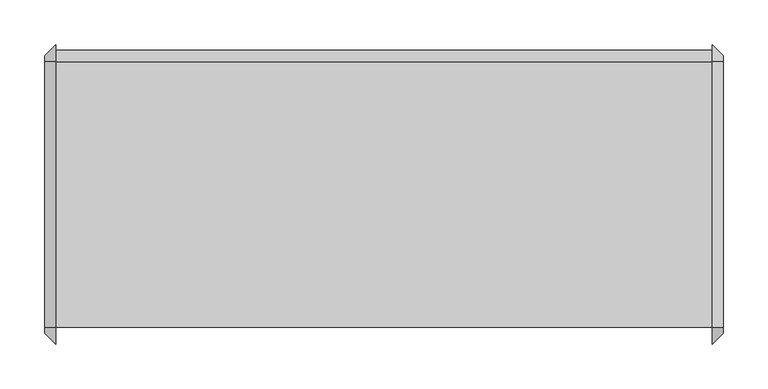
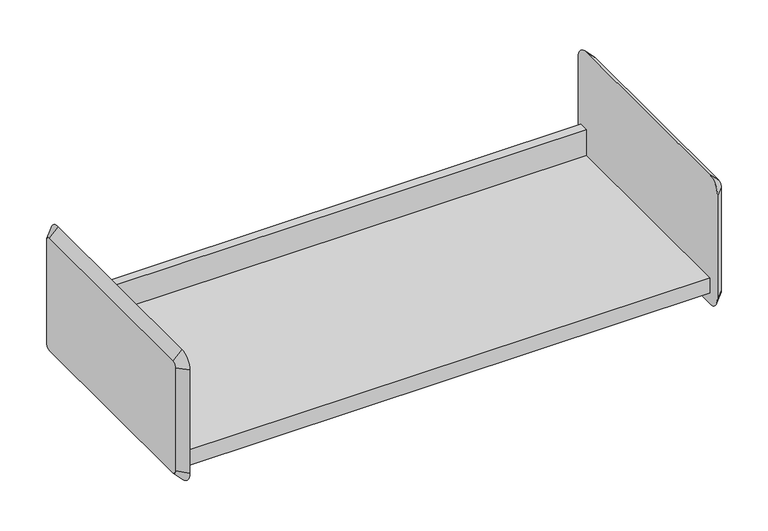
"""IFC4 building model written with IfcOpenShell, lengths in millimetres: furniture geometry."""

import ifcopenshell
import ifcopenshell.guid

model = None  # the IFC model being written
_history = None  # IfcOwnerHistory: only IFC2X3 demands one
_inside = {}  # id of a spatial element -> (the spatial element, [elements in it])
_under = {}  # id of a project, library or spatial element -> (it, [spatial elements below it])
_declared = {}  # id of a project -> (the project, [libraries it declares])
_typed = {}  # id of a type object -> (the type object, [elements of that type])
_made_of = {}  # id of a material, layer set ... -> (it, [elements and type objects made of it])


def new_model(schema):
    """Start an empty IFC model of exactly this schema.

    Asked for "IFC4X3", IfcOpenShell would pick the latest addendum, in which some entities
    have other attributes; the version numbers below select the first issue.
    IFC2X3 requires an IfcOwnerHistory on every rooted entity: one is made here for all.
    """
    global model, _history
    if schema == "IFC4X3":
        model = ifcopenshell.file(schema_version=(4, 3, 0, 0))
    else:
        model = ifcopenshell.file(schema=schema)
    _inside.clear()
    _under.clear()
    _declared.clear()
    _typed.clear()
    _made_of.clear()
    _history = None
    if model.schema == "IFC2X3":
        org = make("IfcOrganization", Name="unknown")
        user = make(
            "IfcPersonAndOrganization",
            ThePerson=make("IfcPerson", FamilyName="unknown"),
            TheOrganization=org,
        )
        app = make(
            "IfcApplication",
            ApplicationDeveloper=org,
            Version="unknown",
            ApplicationFullName="unknown",
            ApplicationIdentifier="unknown",
        )
        _history = make(
            "IfcOwnerHistory",
            OwningUser=user,
            OwningApplication=app,
            ChangeAction="ADDED",
            CreationDate=0,
        )
    return model


def make(cls, **values):
    """One entity of the class cls with the attributes given. An attribute that is None is left unset."""
    return model.create_entity(
        cls, **{name: value for name, value in values.items() if value is not None}
    )


def rooted(cls, **values):
    """An entity with a GlobalId (a new one), such as an element, a storey or a relation."""
    return make(cls, GlobalId=ifcopenshell.guid.new(), OwnerHistory=_history, **values)


def si_unit(unit_type, name, prefix=None):
    """IfcSIUnit, for example si_unit("LENGTHUNIT", "METRE", prefix="MILLI")."""
    return make("IfcSIUnit", UnitType=unit_type, Prefix=prefix, Name=name)


def assignment(units):
    """IfcUnitAssignment: the units of a project."""
    return None if units is None else make("IfcUnitAssignment", Units=units)


def point(xyz):
    """IfcCartesianPoint."""
    return None if xyz is None else make("IfcCartesianPoint", Coordinates=xyz)


def direction(xyz):
    """IfcDirection."""
    return None if xyz is None else make("IfcDirection", DirectionRatios=xyz)


def frame(location, z_axis=None, x_axis=None):
    """IfcAxis2Placement3D, a coordinate frame: its origin and axes. An axis left out is left unset."""
    return make(
        "IfcAxis2Placement3D",
        Location=point(location),
        Axis=direction(z_axis),
        RefDirection=direction(x_axis),
    )


def origin():
    """The frame at (0, 0, 0) with its axes left unset."""
    return frame((0.0, 0.0, 0.0))


def place(relative_to, where):
    """IfcLocalPlacement: puts the frame where relative to a parent placement (None: the world)."""
    return make(
        "IfcLocalPlacement", PlacementRelTo=relative_to, RelativePlacement=where
    )


def context(
    kind, dimensions, precision=None, world=None, true_north=None, identifier=None
):
    """IfcGeometricRepresentationContext, for example the 3D "Model" context."""
    return make(
        "IfcGeometricRepresentationContext",
        ContextIdentifier=identifier,
        ContextType=kind,
        CoordinateSpaceDimension=dimensions,
        Precision=precision,
        WorldCoordinateSystem=world,
        TrueNorth=true_north,
    )


def project(units=None, contexts=None):
    """IfcProject with its units and contexts."""
    return rooted(
        "IfcProject",
        Name="project",
        RepresentationContexts=contexts,
        UnitsInContext=assignment(units),
    )


def spatial(cls, under=None, at=None, **own):
    """A site, building, storey or space (cls), placed at a placement, below another one or the project."""
    s = rooted(cls, ObjectPlacement=at, **own)
    if under is not None:
        _under.setdefault(under.id(), (under, []))[1].append(s)
    return s


def polyline(points):
    """IfcPolyline through the points."""
    return make("IfcPolyline", Points=[point(p) for p in points])


def circle_curve(where, radius):
    """IfcCircle in the frame where."""
    return make("IfcCircle", Position=where, Radius=radius)


def outline(outer, holes=None, kind="AREA"):
    """IfcArbitraryClosedProfileDef: a profile drawn as a closed curve; with holes, ...WithVoids."""
    if holes is None:
        return make("IfcArbitraryClosedProfileDef", ProfileType=kind, OuterCurve=outer)
    return make(
        "IfcArbitraryProfileDefWithVoids",
        ProfileType=kind,
        OuterCurve=outer,
        InnerCurves=holes,
    )


def extrude(swept, where, along, depth):
    """IfcExtrudedAreaSolid: the profile swept, set in the frame where, extruded along a direction by depth."""
    return make(
        "IfcExtrudedAreaSolid",
        SweptArea=swept,
        Position=where,
        ExtrudedDirection=direction(along),
        Depth=depth,
    )


def shape(context_of_items, identifier, shape_type, items):
    """IfcShapeRepresentation: the items that make up one representation, for example the "Body"."""
    return make(
        "IfcShapeRepresentation",
        ContextOfItems=context_of_items,
        RepresentationIdentifier=identifier,
        RepresentationType=shape_type,
        Items=items,
    )


def source(mapping_origin, context_of_items, identifier, shape_type, items):
    """IfcRepresentationMap: a shape defined once, which mapped items show again and again."""
    return make(
        "IfcRepresentationMap",
        MappingOrigin=mapping_origin,
        MappedRepresentation=shape(context_of_items, identifier, shape_type, items),
    )


def transform(
    local_origin,
    x_axis=None,
    y_axis=None,
    z_axis=None,
    scale=None,
    scale2=None,
    scale3=None,
    uniform=True,
):
    """IfcCartesianTransformationOperator3D, or its non-uniform kind. x_axis, y_axis, z_axis: its Axis1, 2, 3."""
    if uniform:
        return make(
            "IfcCartesianTransformationOperator3D",
            Axis1=direction(x_axis),
            Axis2=direction(y_axis),
            LocalOrigin=point(local_origin),
            Scale=scale,
            Axis3=direction(z_axis),
        )
    return make(
        "IfcCartesianTransformationOperator3DnonUniform",
        Axis1=direction(x_axis),
        Axis2=direction(y_axis),
        LocalOrigin=point(local_origin),
        Scale=scale,
        Axis3=direction(z_axis),
        Scale2=scale2,
        Scale3=scale3,
    )


def mapped(mapping_source, mapping_target):
    """IfcMappedItem: shows the shape of a source again, moved by a transform."""
    return make(
        "IfcMappedItem", MappingSource=mapping_source, MappingTarget=mapping_target
    )


def made_of(thing, what):
    """Note that an element or type object is made of a material, layer set ...; save() writes the relation."""
    if what is not None:
        _made_of.setdefault(what.id(), (what, []))[1].append(thing)
    return thing


def element(
    cls,
    number,
    at=None,
    inside=None,
    cuts=None,
    type_object=None,
    material=None,
    context=None,
    identifier="Body",
    shape_type=None,
    held_by="IfcProductDefinitionShape",
    body=None,
    shapes=None,
    **own,
):
    """One element of the class cls, such as IfcWall. Its Tag is "e" and its number.

    at: its placement. inside: the storey or other place that contains it. cuts: it is an
    opening in that element (IfcRelVoidsElement). A single representation is given by context,
    identifier, shape_type and body (its items); several are given by shapes. held_by: the class
    of the entity that holds the representations. save() writes the other relations.
    """
    e = rooted(cls, Tag="e%d" % number, ObjectPlacement=at, **own)
    if body is not None:
        shapes = [shape(context, identifier, shape_type, body)]
    if shapes is not None:
        e.Representation = make(held_by, Representations=shapes)
    if inside is not None:
        _inside.setdefault(inside.id(), (inside, []))[1].append(e)
    if cuts is not None:
        rooted(
            "IfcRelVoidsElement", RelatingBuildingElement=cuts, RelatedOpeningElement=e
        )
    if type_object is not None:
        _typed.setdefault(type_object.id(), (type_object, []))[1].append(e)
    return made_of(e, material)


def aggregate(whole, parts):
    """IfcRelAggregates: a whole, such as a stair, and the parts it consists of."""
    return rooted("IfcRelAggregates", RelatingObject=whole, RelatedObjects=parts)


def save(model, path):
    """Write the relations noted so far, then the file.

    IfcRelAggregates (storeys below a building ...), IfcRelContainedInSpatialStructure (elements
    in a storey), IfcRelDefinesByType, IfcRelAssociatesMaterial and IfcRelDeclares: one each for
    every whole, place, type object, material and project.
    """
    for whole, parts in _under.values():
        aggregate(whole, parts)
    for where, things in _inside.values():
        rooted(
            "IfcRelContainedInSpatialStructure",
            RelatedElements=things,
            RelatingStructure=where,
        )
    for kind, things in _typed.values():
        rooted("IfcRelDefinesByType", RelatedObjects=things, RelatingType=kind)
    for what, things in _made_of.values():
        rooted("IfcRelAssociatesMaterial", RelatedObjects=things, RelatingMaterial=what)
    for by, libraries in _declared.values():
        rooted("IfcRelDeclares", RelatingContext=by, RelatedDefinitions=libraries)
    model.write(path)


def plane_surface(at):
    """IfcPlane: the flat surface through the origin of the frame at, square to its z axis."""
    return make("IfcPlane", Position=at)


def revolved_surface(curve, axis_point, axis_direction):
    """IfcSurfaceOfRevolution: the curve turned about the line through axis_point along axis_direction."""
    return make(
        "IfcSurfaceOfRevolution",
        SweptCurve=make("IfcArbitraryOpenProfileDef", ProfileType="CURVE", Curve=curve),
        AxisPosition=make("IfcAxis1Placement", Location=point(axis_point), Axis=direction(axis_direction)),
    )


def advanced_brep(points, edges, surfaces, faces):
    """IfcAdvancedBrep: a solid bounded by faces that lie on surfaces and meet in shared edges.

    An edge is (start, end): straight between two places in points (the first is 0);
    or (start, end, curve); or (start, end, curve, False) where it runs against its curve.
    A face is (place in surfaces, loops), or (place, loops, False) where it looks against
    its surface's normal. A loop lists edges by number (the first is 1), with a minus sign
    where the edge is run from its end to its start. The first loop is the outer one.
    """
    corners = [point(p) for p in points]
    vertices = [make("IfcVertexPoint", VertexGeometry=c) for c in corners]
    made = []
    for start, end, *more in edges:
        made.append(
            make(
                "IfcEdgeCurve",
                EdgeStart=vertices[start],
                EdgeEnd=vertices[end],
                EdgeGeometry=more[0] if more else make("IfcPolyline", Points=[corners[start], corners[end]]),
                SameSense=more[1] if len(more) > 1 else True,
            )
        )
    hull = []
    for where, loops, *sense in faces:
        bounds = []
        for j, loop in enumerate(loops):
            ring = [make("IfcOrientedEdge", EdgeElement=made[abs(k) - 1], Orientation=k > 0) for k in loop]
            bounds.append(
                make(
                    "IfcFaceOuterBound" if j == 0 else "IfcFaceBound",
                    Bound=make("IfcEdgeLoop", EdgeList=ring),
                    Orientation=True,
                )
            )
        hull.append(make("IfcAdvancedFace", Bounds=bounds, FaceSurface=surfaces[where], SameSense=sense[0] if sense else True))
    return make("IfcAdvancedBrep", Outer=make("IfcClosedShell", CfsFaces=hull))


def furniture_510dab15(model_context):
    return source(origin(), model_context, "Body", "SolidModel", [
        extrude(outline(polyline([(-136.525, 1159.66748), (161.925, 1159.66748), (161.925, 1197.76748), (174.625, 1197.76748), (174.625, 1194.59248), (165.1, 1194.59248), (165.1, 1156.49248), (-133.35, 1156.49248), (-133.35, 1137.44248), (-136.525, 1137.44248), (-136.525, 1159.66748)])), frame((-492.2420045, 0.0, 0.0), z_axis=(1.0, 0.0, 0.0), x_axis=(0.0, 1.0, 0.0)), (0.0, 0.0, 1.0), 736.6),
        advanced_brep(
        [(257.0579955, 161.925, 1299.36748), (257.0579955, -136.525, 1299.36748), (257.0579955, -142.875, 1293.01748), (257.0579955, -142.875, 1140.61748), (257.0579955, -136.525, 1134.26748), (257.0579955, 161.925, 1134.26748), (257.0579955, 168.275, 1140.61748), (257.0579955, 168.275, 1293.01748), (244.3579955, 161.925, 1312.06748), (244.3579955, 180.975, 1293.01748), (244.3579955, 180.975, 1140.61748), (244.3579955, 161.925, 1121.56748), (244.3579955, -136.525, 1121.56748), (244.3579955, -155.575, 1140.61748), (244.3579955, -155.575, 1293.01748), (244.3579955, -136.525, 1312.06748)],
        [
            (0, 1),
            (1, 2, circle_curve(frame((257.0579955, -136.525, 1293.01748), z_axis=(1.0, 2.0756729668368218e-12, -2.1529444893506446e-12), x_axis=(2.15291077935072e-12, 0.0, 1.0)), 6.35)),
            (2, 3),
            (3, 4, circle_curve(frame((257.0579955, -136.525, 1140.61748), z_axis=(1.0, 2.0596857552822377e-12, 2.046363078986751e-12), x_axis=(2.059647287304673e-12, -1.0, 0.0)), 6.35)),
            (4, 5),
            (5, 6, circle_curve(frame((257.0579955, 161.925, 1140.61748), z_axis=(1.0, 2.0889956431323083e-12, -2.0996537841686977e-12), x_axis=(-2.0996846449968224e-12, 0.0, -1.0)), 6.35)),
            (6, 7),
            (7, 0, circle_curve(frame((257.0579955, 161.925, 1293.01748), z_axis=(1.0, 2.0783375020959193e-12, 2.003730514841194e-12), x_axis=(-2.0783313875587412e-12, 1.0, 0.0)), 6.35)),
            (8, 9, circle_curve(frame((244.3579955, 161.925, 1293.01748), z_axis=(-1.0, -2.0783375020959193e-12, -2.003730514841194e-12), x_axis=(-2.0783313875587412e-12, 1.0, 0.0)), 19.05)),
            (9, 10),
            (10, 11, circle_curve(frame((244.3579955, 161.925, 1140.61748), z_axis=(-1.0, -2.0889956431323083e-12, 2.0996537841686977e-12), x_axis=(-2.0996846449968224e-12, 0.0, -1.0)), 19.05)),
            (11, 12),
            (12, 13, circle_curve(frame((244.3579955, -136.525, 1140.61748), z_axis=(-1.0, -2.0596857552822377e-12, -2.046363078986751e-12), x_axis=(2.059647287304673e-12, -1.0, 0.0)), 19.05)),
            (13, 14),
            (14, 15, circle_curve(frame((244.3579955, -136.525, 1293.01748), z_axis=(-1.0, -2.0756729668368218e-12, 2.1529444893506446e-12), x_axis=(2.15291077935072e-12, 0.0, 1.0)), 19.05)),
            (15, 8),
            (15, 1),
            (0, 8),
            (14, 2),
            (13, 3),
            (12, 4),
            (11, 5),
            (10, 6),
            (9, 7),
        ],
        [
            plane_surface(frame((257.0579955, 12.7, 1216.81748), z_axis=(1.0, 0.0, 0.0), x_axis=(0.0, -1.0, 0.0))),
            plane_surface(frame((244.3579955, 12.7, 1216.81748), z_axis=(-1.0, 0.0, 0.0), x_axis=(0.0, -1.0, 0.0))),
            plane_surface(frame((244.3579955, 12.7, 1312.06748), z_axis=(0.7071067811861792, 0.0, 0.7071067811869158), x_axis=(0.0, -1.0, 0.0))),
            revolved_surface(polyline([(257.0579955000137, -136.525, 1299.3674799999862), (244.3579955, -136.525, 1312.06748)]), (263.4079955, -136.525, 1293.01748), (-1.0, -2.0756729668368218e-12, 2.1529444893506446e-12)),
            plane_surface(frame((244.3579955, -155.575, 1216.81748), z_axis=(0.7071067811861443, -0.7071067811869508, 0.0), x_axis=(0.0, 0.0, -1.0))),
            revolved_surface(polyline([(257.0579955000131, -142.87499999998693, 1140.61748), (244.3579955, -155.575, 1140.61748)]), (263.4079955, -136.525, 1140.61748), (-1.0, -2.0596857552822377e-12, -2.046363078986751e-12)),
            plane_surface(frame((244.3579955, 12.7, 1121.56748), z_axis=(0.7071067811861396, 0.0, -0.7071067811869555), x_axis=(0.0, 1.0, 0.0))),
            revolved_surface(polyline([(257.0579955, 161.925, 1134.26748), (244.35799549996, 161.925, 1121.56747999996)]), (263.4079955, 161.925, 1140.61748), (-1.0, -2.0889956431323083e-12, 2.0996537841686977e-12)),
            plane_surface(frame((244.3579955, 180.975, 1216.81748), z_axis=(0.7071067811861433, 0.7071067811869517, 0.0), x_axis=(0.0, 0.0, 1.0))),
            revolved_surface(polyline([(257.0579955, 168.275, 1293.01748), (244.3579954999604, 180.97500000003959, 1293.01748)]), (263.4079955, 161.925, 1293.01748), (-1.0, -2.0783375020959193e-12, -2.003730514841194e-12)),
        ],
        [
            (0, [[1, 2, 3, 4, 5, 6, 7, 8]]),
            (1, [[9, 10, 11, 12, 13, 14, 15, 16]]),
            (2, [[-16, 17, -1, 18]]),
            (3, [[-15, 19, -2, -17]]),
            (4, [[-14, 20, -3, -19]]),
            (5, [[-13, 21, -4, -20]]),
            (6, [[-12, 22, -5, -21]]),
            (7, [[-11, 23, -6, -22]]),
            (8, [[-10, 24, -7, -23]]),
            (9, [[-9, -18, -8, -24]]),
        ],
    ),
        advanced_brep(
        [(-504.9420045, -136.525, 1299.36748), (-504.9420045, 161.925, 1299.36748), (-504.9420045, 168.275, 1293.01748), (-504.9420045, 168.275, 1140.61748), (-504.9420045, 161.925, 1134.26748), (-504.9420045, -136.525, 1134.26748), (-504.9420045, -142.875, 1140.61748), (-504.9420045, -142.875, 1293.01748), (-492.2420045, -136.525, 1312.06748), (-492.2420045, -155.575, 1293.01748), (-492.2420045, -155.575, 1140.61748), (-492.2420045, -136.525, 1121.56748), (-492.2420045, 161.925, 1121.56748), (-492.2420045, 180.975, 1140.61748), (-492.2420045, 180.975, 1293.01748), (-492.2420045, 161.925, 1312.06748)],
        [
            (0, 1),
            (1, 2, circle_curve(frame((-504.9420045, 161.925, 1293.01748), z_axis=(-1.0, 0.0, 0.0), x_axis=(0.0, 0.0, 1.0)), 6.35)),
            (2, 3),
            (3, 4, circle_curve(frame((-504.9420045, 161.925, 1140.61748), z_axis=(-1.0, 0.0, 0.0), x_axis=(0.0, 1.0, 0.0)), 6.35)),
            (4, 5),
            (5, 6, circle_curve(frame((-504.9420045, -136.525, 1140.61748), z_axis=(-1.0, 0.0, 0.0), x_axis=(0.0, 0.0, -1.0)), 6.35)),
            (6, 7),
            (7, 0, circle_curve(frame((-504.9420045, -136.525, 1293.01748), z_axis=(-1.0, 0.0, 0.0), x_axis=(0.0, -1.0, 0.0)), 6.35)),
            (8, 9, circle_curve(frame((-492.2420045, -136.525, 1293.01748), z_axis=(1.0, 0.0, 0.0), x_axis=(0.0, -1.0, 0.0)), 19.05)),
            (9, 10),
            (10, 11, circle_curve(frame((-492.2420045, -136.525, 1140.61748), z_axis=(1.0, 0.0, 0.0), x_axis=(0.0, 0.0, -1.0)), 19.05)),
            (11, 12),
            (12, 13, circle_curve(frame((-492.2420045, 161.925, 1140.61748), z_axis=(1.0, 0.0, 0.0), x_axis=(0.0, 1.0, 0.0)), 19.05)),
            (13, 14),
            (14, 15, circle_curve(frame((-492.2420045, 161.925, 1293.01748), z_axis=(1.0, 0.0, 0.0), x_axis=(0.0, 0.0, 1.0)), 19.05)),
            (15, 8),
            (15, 1),
            (0, 8),
            (14, 2),
            (13, 3),
            (12, 4),
            (11, 5),
            (10, 6),
            (9, 7),
        ],
        [
            plane_surface(frame((-504.9420045, 12.7, 1216.81748), z_axis=(-1.0, 0.0, 0.0), x_axis=(0.0, -1.0, 0.0))),
            plane_surface(frame((-492.2420045, 12.7, 1216.81748), z_axis=(1.0, 0.0, 0.0), x_axis=(0.0, -1.0, 0.0))),
            plane_surface(frame((-492.2420045, 12.7, 1312.06748), z_axis=(-0.7071067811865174, 0.0, 0.7071067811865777), x_axis=(0.0, 1.0, 0.0))),
            revolved_surface(polyline([(-504.9420045, 161.925, 1299.36748), (-492.2420045, 161.925, 1312.06748)]), (-511.2920045, 161.925, 1293.01748), (1.0, 0.0, 0.0)),
            plane_surface(frame((-492.2420045, 180.975, 1216.81748), z_axis=(-0.7071067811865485, 0.7071067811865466, 0.0), x_axis=(0.0, 0.0, -1.0))),
            revolved_surface(polyline([(-504.9420045, 168.27500000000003, 1140.61748), (-492.2420045, 180.975, 1140.61748)]), (-511.2920045, 161.925, 1140.61748), (1.0, 0.0, 0.0)),
            plane_surface(frame((-492.2420045, 12.7, 1121.56748), z_axis=(-0.707106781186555, 0.0, -0.70710678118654), x_axis=(0.0, -1.0, 0.0))),
            revolved_surface(polyline([(-504.9420045, -136.525, 1134.26748), (-492.2420045, -136.525, 1121.56748)]), (-511.2920045, -136.525, 1140.61748), (1.0, 0.0, 0.0)),
            plane_surface(frame((-492.2420045, -155.575, 1216.81748), z_axis=(-0.7071067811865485, -0.7071067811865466, 0.0), x_axis=(0.0, 0.0, 1.0))),
            revolved_surface(polyline([(-504.9420045, -142.87500000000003, 1293.01748), (-492.2420045, -155.575, 1293.01748)]), (-511.2920045, -136.525, 1293.01748), (1.0, 0.0, 0.0)),
        ],
        [
            (0, [[1, 2, 3, 4, 5, 6, 7, 8]]),
            (1, [[9, 10, 11, 12, 13, 14, 15, 16]]),
            (2, [[-16, 17, -1, 18]]),
            (3, [[-15, 19, -2, -17]]),
            (4, [[-14, 20, -3, -19]]),
            (5, [[-13, 21, -4, -20]]),
            (6, [[-12, 22, -5, -21]]),
            (7, [[-11, 23, -6, -22]]),
            (8, [[-10, 24, -7, -23]]),
            (9, [[-9, -18, -8, -24]]),
        ],
    ),
    ])


if __name__ == "__main__":
    model = new_model("IFC4")
    model_context = context("Model", 3, world=origin())
    ifc_project = project(units=[si_unit("LENGTHUNIT", "METRE", prefix="MILLI")], contexts=[model_context])
    site = spatial("IfcSite", under=ifc_project)
    building = spatial("IfcBuilding", under=site)
    placement = place(None, origin())
    furniture_shape = furniture_510dab15(model_context)
    element("IfcFurniture", 1, ObjectType="HermanMiller_ActionOffice_A3220_B-StyleStorageDisplay : Shelf 13\"D x 30\"W", at=placement, inside=building, context=model_context, shape_type="MappedRepresentation", body=[
        mapped(furniture_shape, transform((0.0, 0.0, 0.0), x_axis=(1.0, 0.0, 0.0), y_axis=(0.0, 1.0, 0.0), z_axis=(0.0, 0.0, 1.0))),
    ])
    save(model, "model.ifc")
